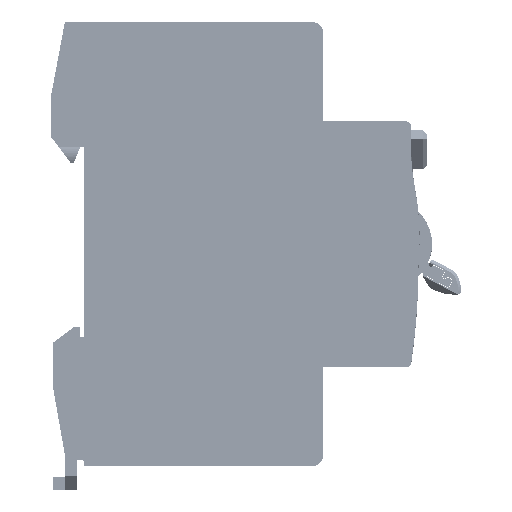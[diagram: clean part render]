
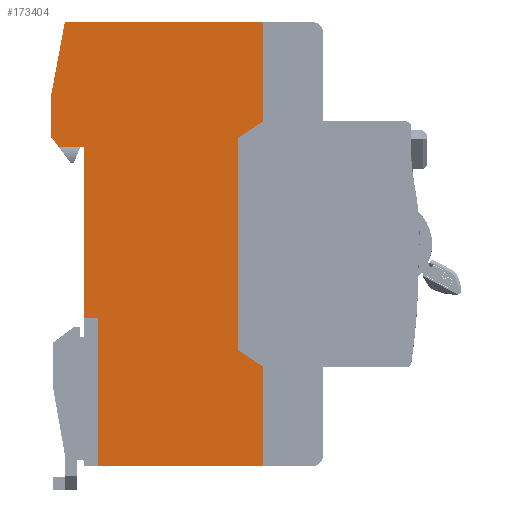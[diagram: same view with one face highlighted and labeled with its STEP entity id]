
A CAD part, front view. The second image highlights one B-rep face of the part: STEP entity #173404.
In plain terms, the highlighted planar face has unit normal (0, -1, 0).
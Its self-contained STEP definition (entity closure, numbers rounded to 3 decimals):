
#2029 = ORIENTED_EDGE ( 'NONE', *, *, #266339, .F. ) ;
#3662 = CARTESIAN_POINT ( 'NONE',  ( 27.35, 0., 20.25 ) ) ;
#6273 = CARTESIAN_POINT ( 'NONE',  ( 30.35, 0., 9.358 ) ) ;
#6662 = CARTESIAN_POINT ( 'NONE',  ( 30.35, 0., 18.25 ) ) ;
#7663 = DIRECTION ( 'NONE',  ( 0., 0., -1. ) ) ;
#9673 = EDGE_CURVE ( 'NONE', #196189, #157662, #47964, .T. ) ;
#13501 = CARTESIAN_POINT ( 'NONE',  ( 30.35, 0., 0. ) ) ;
#14748 = ORIENTED_EDGE ( 'NONE', *, *, #89538, .T. ) ;
#17140 = DIRECTION ( 'NONE',  ( 0., 0., 1. ) ) ;
#21690 = B_SPLINE_CURVE_WITH_KNOTS ( 'NONE', 3,
 ( #256812, #182575, #281468, #187455 ),
 .UNSPECIFIED., .F., .F.,
 ( 4, 4 ),
 ( 0., 1. ),
 .UNSPECIFIED. ) ;
#22286 = B_SPLINE_CURVE_WITH_KNOTS ( 'NONE', 3,
 ( #270597, #44962, #3662, #254027 ),
 .UNSPECIFIED., .F., .F.,
 ( 4, 4 ),
 ( 0., 1. ),
 .UNSPECIFIED. ) ;
#28742 = VECTOR ( 'NONE', #309209, 1000. ) ;
#28973 = VERTEX_POINT ( 'NONE', #94956 ) ;
#34625 = ORIENTED_EDGE ( 'NONE', *, *, #325071, .F. ) ;
#36746 = VECTOR ( 'NONE', #173159, 1000. ) ;
#38328 = VECTOR ( 'NONE', #48413, 1000. ) ;
#39748 = VERTEX_POINT ( 'NONE', #270020 ) ;
#42273 = EDGE_CURVE ( 'NONE', #289761, #92205, #99129, .T. ) ;
#44962 = CARTESIAN_POINT ( 'NONE',  ( 28.85, 0., 19.25 ) ) ;
#44967 = DIRECTION ( 'NONE',  ( 0., -1., 0. ) ) ;
#45057 = CARTESIAN_POINT ( 'NONE',  ( -8.5, 0., 64.25 ) ) ;
#47964 = LINE ( 'NONE', #301485, #36746 ) ;
#48413 = DIRECTION ( 'NONE',  ( 1., 0., 0. ) ) ;
#52212 = ORIENTED_EDGE ( 'NONE', *, *, #186127, .T. ) ;
#53353 = LINE ( 'NONE', #153782, #55902 ) ;
#55482 = LINE ( 'NONE', #129491, #117072 ) ;
#55902 = VECTOR ( 'NONE', #203299, 1000. ) ;
#57937 = ORIENTED_EDGE ( 'NONE', *, *, #314570, .F. ) ;
#61521 = CARTESIAN_POINT ( 'NONE',  ( -6.83, 0., 77.042 ) ) ;
#63939 = VECTOR ( 'NONE', #214311, 1000. ) ;
#67817 = EDGE_CURVE ( 'NONE', #94766, #176926, #136567, .T. ) ;
#70575 = EDGE_CURVE ( 'NONE', #157662, #212993, #181969, .T. ) ;
#71292 = PLANE ( 'NONE',  #166975 ) ;
#72954 = CARTESIAN_POINT ( 'NONE',  ( 12.177, 0., 81.5 ) ) ;
#73332 = B_SPLINE_CURVE_WITH_KNOTS ( 'NONE', 3,
 ( #304184, #200640, #78619, #147889 ),
 .UNSPECIFIED., .F., .F.,
 ( 4, 4 ),
 ( 0., 1. ),
 .UNSPECIFIED. ) ;
#78619 = CARTESIAN_POINT ( 'NONE',  ( 28.85, 0., 62.25 ) ) ;
#81322 = VERTEX_POINT ( 'NONE', #6662 ) ;
#85462 = ORIENTED_EDGE ( 'NONE', *, *, #9673, .F. ) ;
#86057 = CARTESIAN_POINT ( 'NONE',  ( -2.5, 0., 27.25 ) ) ;
#86553 = VECTOR ( 'NONE', #250725, 1000. ) ;
#89538 = EDGE_CURVE ( 'NONE', #92205, #28973, #73332, .T. ) ;
#92205 = VERTEX_POINT ( 'NONE', #106141 ) ;
#94766 = VERTEX_POINT ( 'NONE', #114087 ) ;
#94956 = CARTESIAN_POINT ( 'NONE',  ( 30.35, 0., 63.25 ) ) ;
#99129 = LINE ( 'NONE', #146984, #86553 ) ;
#103734 = VECTOR ( 'NONE', #277138, 1000. ) ;
#104743 = CARTESIAN_POINT ( 'NONE',  ( 0., 0., 27.25 ) ) ;
#106141 = CARTESIAN_POINT ( 'NONE',  ( 25.85, 0., 60.25 ) ) ;
#114087 = CARTESIAN_POINT ( 'NONE',  ( -8.5, 0., 68.125 ) ) ;
#114914 = VERTEX_POINT ( 'NONE', #13501 ) ;
#117072 = VECTOR ( 'NONE', #7663, 1000. ) ;
#129491 = CARTESIAN_POINT ( 'NONE',  ( 0., 0., 40.75 ) ) ;
#131379 = ORIENTED_EDGE ( 'NONE', *, *, #67817, .F. ) ;
#133937 = CARTESIAN_POINT ( 'NONE',  ( -5.995, 0., 81.5 ) ) ;
#134099 = CARTESIAN_POINT ( 'NONE',  ( -4.807, 0., 58.55 ) ) ;
#136567 = B_SPLINE_CURVE_WITH_KNOTS ( 'NONE', 3,
 ( #160395, #287164, #61521, #133937 ),
 .UNSPECIFIED., .F., .F.,
 ( 4, 4 ),
 ( 0., 1. ),
 .UNSPECIFIED. ) ;
#143573 = CARTESIAN_POINT ( 'NONE',  ( 0., 0., 0. ) ) ;
#144120 = CARTESIAN_POINT ( 'NONE',  ( -8.5, 0., 60.375 ) ) ;
#146984 = CARTESIAN_POINT ( 'NONE',  ( 25.85, 0., 40.75 ) ) ;
#147889 = CARTESIAN_POINT ( 'NONE',  ( 30.35, 0., 63.25 ) ) ;
#153782 = CARTESIAN_POINT ( 'NONE',  ( 13.925, 0., 0. ) ) ;
#157662 = VERTEX_POINT ( 'NONE', #201354 ) ;
#160395 = CARTESIAN_POINT ( 'NONE',  ( -8.5, 0., 68.125 ) ) ;
#166975 = AXIS2_PLACEMENT_3D ( 'NONE', #249165, #44967, #171787 ) ;
#171787 = DIRECTION ( 'NONE',  ( 1., 0., 0. ) ) ;
#173159 = DIRECTION ( 'NONE',  ( 0., 0., 1. ) ) ;
#173404 = ADVANCED_FACE ( 'NONE', ( #198122 ), #71292, .T. ) ;
#173617 = CARTESIAN_POINT ( 'NONE',  ( 10.925, 0., 27.25 ) ) ;
#176926 = VERTEX_POINT ( 'NONE', #249486 ) ;
#177930 = EDGE_CURVE ( 'NONE', #81322, #289761, #22286, .T. ) ;
#178432 = VECTOR ( 'NONE', #233082, 1000. ) ;
#179106 = EDGE_CURVE ( 'NONE', #176926, #39748, #298517, .T. ) ;
#181969 = LINE ( 'NONE', #134099, #178432 ) ;
#182575 = CARTESIAN_POINT ( 'NONE',  ( -7.575, 0., 59.158 ) ) ;
#186127 = EDGE_CURVE ( 'NONE', #222666, #233735, #55482, .T. ) ;
#187455 = CARTESIAN_POINT ( 'NONE',  ( -8.5, 0., 60.375 ) ) ;
#190280 = EDGE_LOOP ( 'NONE', ( #14748, #34625, #236283, #131379, #267121, #57937, #191149, #85462, #237422, #52212, #2029, #282570, #195528, #305210 ) ) ;
#191125 = CARTESIAN_POINT ( 'NONE',  ( 30.35, 0., 72.142 ) ) ;
#191149 = ORIENTED_EDGE ( 'NONE', *, *, #70575, .F. ) ;
#195528 = ORIENTED_EDGE ( 'NONE', *, *, #177930, .T. ) ;
#196189 = VERTEX_POINT ( 'NONE', #86057 ) ;
#198122 = FACE_OUTER_BOUND ( 'NONE', #190280, .T. ) ;
#200640 = CARTESIAN_POINT ( 'NONE',  ( 27.35, 0., 61.25 ) ) ;
#201354 = CARTESIAN_POINT ( 'NONE',  ( -2.5, 0., 58.55 ) ) ;
#201615 = LINE ( 'NONE', #173617, #38328 ) ;
#203299 = DIRECTION ( 'NONE',  ( -1., 0., 0. ) ) ;
#210793 = VERTEX_POINT ( 'NONE', #144120 ) ;
#212993 = VERTEX_POINT ( 'NONE', #257866 ) ;
#214311 = DIRECTION ( 'NONE',  ( 0., 0., -1. ) ) ;
#216170 = CARTESIAN_POINT ( 'NONE',  ( 25.85, 0., 21.25 ) ) ;
#222666 = VERTEX_POINT ( 'NONE', #104743 ) ;
#233082 = DIRECTION ( 'NONE',  ( -1., 0., 0. ) ) ;
#233735 = VERTEX_POINT ( 'NONE', #143573 ) ;
#236283 = ORIENTED_EDGE ( 'NONE', *, *, #179106, .F. ) ;
#237422 = ORIENTED_EDGE ( 'NONE', *, *, #243422, .T. ) ;
#237506 = EDGE_CURVE ( 'NONE', #81322, #114914, #310830, .T. ) ;
#243422 = EDGE_CURVE ( 'NONE', #196189, #222666, #201615, .T. ) ;
#249165 = CARTESIAN_POINT ( 'NONE',  ( -8.5, 0., 0. ) ) ;
#249486 = CARTESIAN_POINT ( 'NONE',  ( -5.995, 0., 81.5 ) ) ;
#250725 = DIRECTION ( 'NONE',  ( 0., 0., 1. ) ) ;
#254027 = CARTESIAN_POINT ( 'NONE',  ( 25.85, 0., 21.25 ) ) ;
#256812 = CARTESIAN_POINT ( 'NONE',  ( -7.113, 0., 58.55 ) ) ;
#257866 = CARTESIAN_POINT ( 'NONE',  ( -7.113, 0., 58.55 ) ) ;
#266339 = EDGE_CURVE ( 'NONE', #114914, #233735, #53353, .T. ) ;
#267121 = ORIENTED_EDGE ( 'NONE', *, *, #268120, .F. ) ;
#268120 = EDGE_CURVE ( 'NONE', #210793, #94766, #316809, .T. ) ;
#270020 = CARTESIAN_POINT ( 'NONE',  ( 30.35, 0., 81.5 ) ) ;
#270597 = CARTESIAN_POINT ( 'NONE',  ( 30.35, 0., 18.25 ) ) ;
#277138 = DIRECTION ( 'NONE',  ( 1., 0., 0. ) ) ;
#281468 = CARTESIAN_POINT ( 'NONE',  ( -8.038, 0., 59.767 ) ) ;
#282570 = ORIENTED_EDGE ( 'NONE', *, *, #237506, .F. ) ;
#283026 = VECTOR ( 'NONE', #17140, 1000. ) ;
#287164 = CARTESIAN_POINT ( 'NONE',  ( -7.665, 0., 72.583 ) ) ;
#289761 = VERTEX_POINT ( 'NONE', #216170 ) ;
#298517 = LINE ( 'NONE', #72954, #103734 ) ;
#301485 = CARTESIAN_POINT ( 'NONE',  ( -2.5, 0., 29.275 ) ) ;
#304184 = CARTESIAN_POINT ( 'NONE',  ( 25.85, 0., 60.25 ) ) ;
#305210 = ORIENTED_EDGE ( 'NONE', *, *, #42273, .T. ) ;
#309209 = DIRECTION ( 'NONE',  ( 0., 0., -1. ) ) ;
#310830 = LINE ( 'NONE', #6273, #28742 ) ;
#314570 = EDGE_CURVE ( 'NONE', #212993, #210793, #21690, .T. ) ;
#316251 = LINE ( 'NONE', #191125, #63939 ) ;
#316809 = LINE ( 'NONE', #45057, #283026 ) ;
#325071 = EDGE_CURVE ( 'NONE', #39748, #28973, #316251, .T. ) ;
